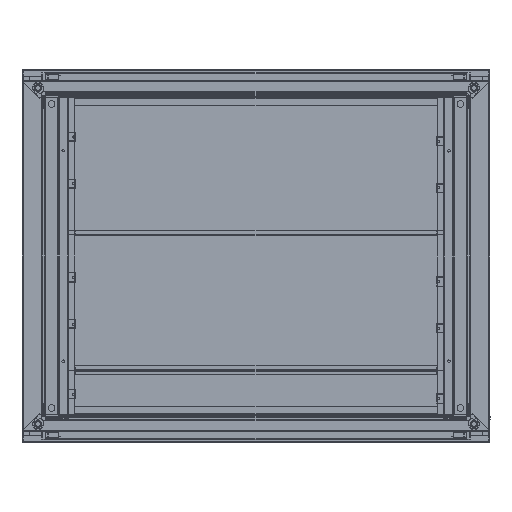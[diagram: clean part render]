
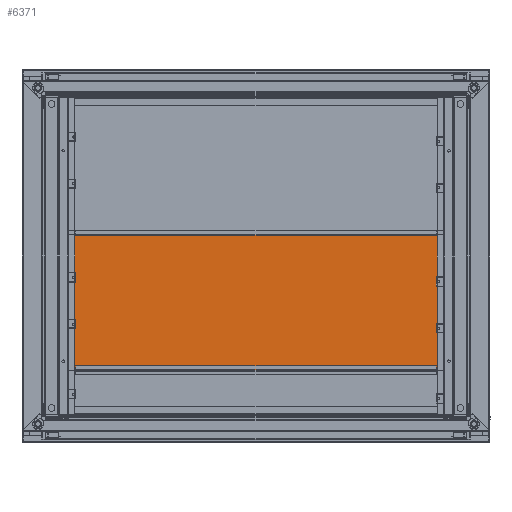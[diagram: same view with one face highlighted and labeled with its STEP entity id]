
A CAD part, front view. The second image highlights one B-rep face of the part: STEP entity #6371.
In plain terms, the highlighted planar face has unit normal (0, -1, 0) as drawn and (0, 1, 0) by its records, which use the part's own axes.
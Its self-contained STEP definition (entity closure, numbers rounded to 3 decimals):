
#6006=CARTESIAN_POINT(' ',(400.,0.,-149.));
#6011=DIRECTION(' ',(-1.,0.,0.));
#6016=VECTOR(' ',#6011,1.);
#6021=LINE('',#6006,#6016);
#6026=CARTESIAN_POINT(' ',(400.,0.,-149.));
#6027=VERTEX_POINT(' ',#6026);
#6031=CARTESIAN_POINT(' ',(-400.,0.,-149.));
#6032=VERTEX_POINT(' ',#6031);
#6036=EDGE_CURVE(' ',#6027,#6032,#6021,.T.);
#6161=DIRECTION(' ',(0.,1.,0.));
#6166=CARTESIAN_POINT(' ',(-400.,0.,-149.));
#6171=DIRECTION(' ',(0.,-0.,1.));
#6176=AXIS2_PLACEMENT_3D(' ',#6166,#6161,#6171);
#6181=PLANE('NONE',#6176);
#6186=CARTESIAN_POINT(' ',(385.,0.,149.));
#6191=DIRECTION(' ',(1.,0.,0.));
#6196=VECTOR(' ',#6191,1.);
#6201=LINE('',#6186,#6196);
#6206=CARTESIAN_POINT(' ',(385.,0.,149.));
#6207=VERTEX_POINT(' ',#6206);
#6211=CARTESIAN_POINT(' ',(400.,0.,149.));
#6212=VERTEX_POINT(' ',#6211);
#6216=EDGE_CURVE(' ',#6207,#6212,#6201,.T.);
#6221=ORIENTED_EDGE(' ',*,*,#6216,.T.);
#6226=CARTESIAN_POINT(' ',(400.,0.,149.));
#6231=DIRECTION(' ',(0.,0.,-1.));
#6236=VECTOR(' ',#6231,1.);
#6241=LINE('',#6226,#6236);
#6246=EDGE_CURVE(' ',#6212,#6027,#6241,.T.);
#6251=ORIENTED_EDGE(' ',*,*,#6246,.T.);
#6256=ORIENTED_EDGE(' ',*,*,#6036,.T.);
#6261=CARTESIAN_POINT(' ',(-400.,0.,-149.));
#6266=DIRECTION(' ',(0.,0.,1.));
#6271=VECTOR(' ',#6266,1.);
#6276=LINE('',#6261,#6271);
#6281=CARTESIAN_POINT(' ',(-400.,0.,149.));
#6282=VERTEX_POINT(' ',#6281);
#6286=EDGE_CURVE(' ',#6032,#6282,#6276,.T.);
#6291=ORIENTED_EDGE(' ',*,*,#6286,.T.);
#6296=CARTESIAN_POINT(' ',(-400.,0.,149.));
#6301=DIRECTION(' ',(1.,0.,0.));
#6306=VECTOR(' ',#6301,1.);
#6311=LINE('',#6296,#6306);
#6316=CARTESIAN_POINT(' ',(-385.,0.,149.));
#6317=VERTEX_POINT(' ',#6316);
#6321=EDGE_CURVE(' ',#6282,#6317,#6311,.T.);
#6326=ORIENTED_EDGE(' ',*,*,#6321,.T.);
#6331=CARTESIAN_POINT(' ',(-385.,0.,149.));
#6336=DIRECTION(' ',(1.,0.,0.));
#6341=VECTOR(' ',#6336,1.);
#6346=LINE('',#6331,#6341);
#6351=EDGE_CURVE(' ',#6317,#6207,#6346,.T.);
#6356=ORIENTED_EDGE(' ',*,*,#6351,.T.);
#6361=EDGE_LOOP(' ',(#6221,#6251,#6256,#6291,#6326,#6356));
#6366=FACE_OUTER_BOUND(' ',#6361,.T.);
#6371=ADVANCED_FACE('NONE',(#6366),#6181,.T.);
